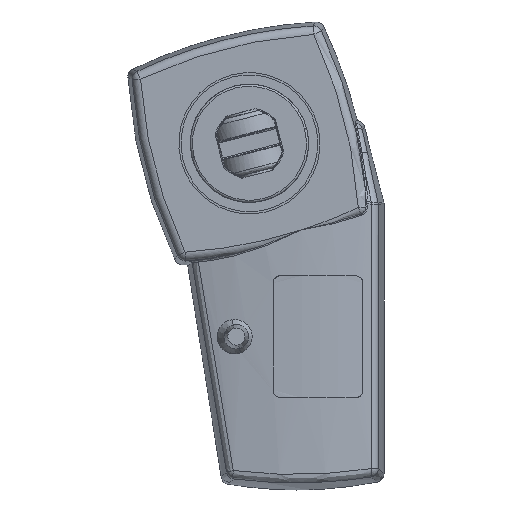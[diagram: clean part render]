
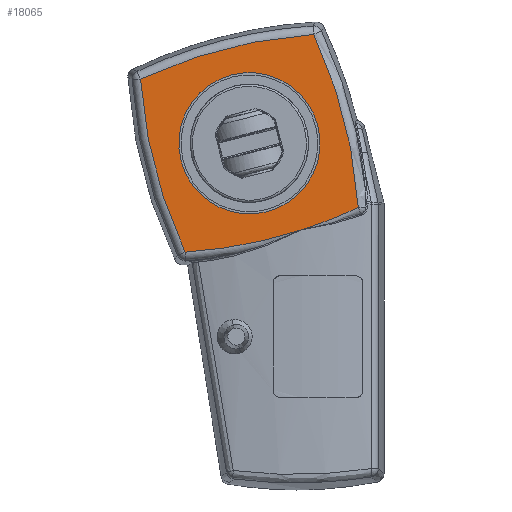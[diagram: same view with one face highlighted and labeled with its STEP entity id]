
A CAD part, top view. The second image highlights one B-rep face of the part: STEP entity #18065.
In plain terms, the highlighted planar face has unit normal (0, 0, 1).
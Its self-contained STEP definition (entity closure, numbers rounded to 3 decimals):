
#351=CARTESIAN_POINT('',(-44.572,172.846,62.289));
#352=DIRECTION('',(0.,0.,-1.));
#353=DIRECTION('',(0.308,-0.951,0.));
#354=AXIS2_PLACEMENT_3D('',#351,#352,#353);
#356=CARTESIAN_POINT('',(172.846,44.572,62.289));
#357=DIRECTION('',(0.,0.,-1.));
#358=DIRECTION('',(-0.905,-0.426,0.));
#359=AXIS2_PLACEMENT_3D('',#356,#357,#358);
#361=CARTESIAN_POINT('',(44.572,-172.846,62.289));
#362=DIRECTION('',(0.,0.,-1.));
#363=DIRECTION('',(-0.426,0.905,0.));
#364=AXIS2_PLACEMENT_3D('',#361,#362,#363);
#366=CARTESIAN_POINT('',(-172.846,-44.572,62.289));
#367=DIRECTION('',(0.,0.,-1.));
#368=DIRECTION('',(0.905,0.426,0.));
#369=AXIS2_PLACEMENT_3D('',#366,#367,#368);
#371=CARTESIAN_POINT('',(-44.572,172.846,62.289));
#372=DIRECTION('',(0.,0.,-1.));
#373=DIRECTION('',(0.426,-0.905,0.));
#374=AXIS2_PLACEMENT_3D('',#371,#372,#373);
#376=CARTESIAN_POINT('',(0.,0.,62.289));
#377=DIRECTION('',(0.,0.,1.));
#378=DIRECTION('',(0.25,-0.968,0.));
#379=AXIS2_PLACEMENT_3D('',#376,#377,#378);
#381=CARTESIAN_POINT('',(0.,0.,62.289));
#382=DIRECTION('',(0.,0.,1.));
#383=DIRECTION('',(-0.25,0.968,0.));
#384=AXIS2_PLACEMENT_3D('',#381,#382,#383);
#14846=CARTESIAN_POINT('',(24.412,-40.463,
62.289));
#14847=CARTESIAN_POINT('',(-30.011,-50.868,
62.289));
#14848=VERTEX_POINT('',#14846);
#14849=VERTEX_POINT('',#14847);
#14850=CARTESIAN_POINT('',(-50.868,30.011,
62.289));
#14851=VERTEX_POINT('',#14850);
#14852=CARTESIAN_POINT('',(30.011,50.868,62.289));
#14853=VERTEX_POINT('',#14852);
#14854=CARTESIAN_POINT('',(50.868,-30.011,
62.289));
#14855=VERTEX_POINT('',#14854);
#14856=CARTESIAN_POINT('',(8.24,-31.955,
62.289));
#14857=CARTESIAN_POINT('',(-8.24,31.955,
62.289));
#14858=VERTEX_POINT('',#14856);
#14859=VERTEX_POINT('',#14857);
#18044=CARTESIAN_POINT('',(0.,0.,62.289));
#18045=DIRECTION('',(0.,0.,-1.));
#18046=DIRECTION('',(-0.25,0.968,0.));
#18047=AXIS2_PLACEMENT_3D('',#18044,#18045,#18046);
#18048=PLANE('',#18047);
#18050=ORIENTED_EDGE('',*,*,#18049,.T.);
#18052=ORIENTED_EDGE('',*,*,#18051,.T.);
#18054=ORIENTED_EDGE('',*,*,#18053,.T.);
#18056=ORIENTED_EDGE('',*,*,#18055,.T.);
#18058=ORIENTED_EDGE('',*,*,#18057,.T.);
#18059=EDGE_LOOP('',(#18050,#18052,#18054,#18056,#18058));
#18060=FACE_OUTER_BOUND('',#18059,.F.);
#18061=ORIENTED_EDGE('',*,*,#18026,.T.);
#18062=ORIENTED_EDGE('',*,*,#18037,.T.);
#18063=EDGE_LOOP('',(#18061,#18062));
#18064=FACE_BOUND('',#18063,.F.);
#18065=ADVANCED_FACE('',(#18060,#18064),#18048,.F.);
#355=CIRCLE('',#354,224.186);
#360=CIRCLE('',#359,224.186);
#365=CIRCLE('',#364,224.186);
#370=CIRCLE('',#369,224.186);
#375=CIRCLE('',#374,224.186);
#380=CIRCLE('',#379,33.);
#385=CIRCLE('',#384,33.);
#18026=EDGE_CURVE('',#14858,#14859,#380,.T.);
#18037=EDGE_CURVE('',#14859,#14858,#385,.T.);
#18049=EDGE_CURVE('',#14848,#14849,#355,.T.);
#18051=EDGE_CURVE('',#14849,#14851,#360,.T.);
#18053=EDGE_CURVE('',#14851,#14853,#365,.T.);
#18055=EDGE_CURVE('',#14853,#14855,#370,.T.);
#18057=EDGE_CURVE('',#14855,#14848,#375,.T.);
